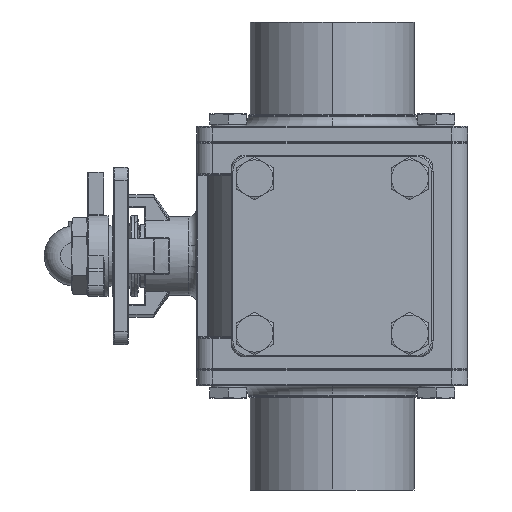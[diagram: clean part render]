
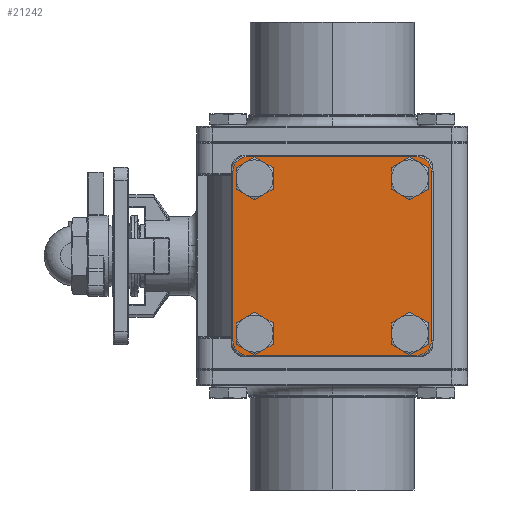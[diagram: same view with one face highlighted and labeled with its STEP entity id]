
A CAD part, left-side view. The second image highlights one B-rep face of the part: STEP entity #21242.
In plain terms, the highlighted planar face has unit normal (-1, 0, 0) as drawn and (0, 0, 1) by its records, which use the part's own axes.
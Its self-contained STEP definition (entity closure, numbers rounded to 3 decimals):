
#302 = DIRECTION ( 'NONE',  ( 0., 1., 0. ) ) ;
#307 = VERTEX_POINT ( 'NONE', #22426 ) ;
#315 = CARTESIAN_POINT ( 'NONE',  ( 52.5, 52.5, 10. ) ) ;
#778 = DIRECTION ( 'NONE',  ( 1., 0., 0. ) ) ;
#1271 = VERTEX_POINT ( 'NONE', #19584 ) ;
#1310 = EDGE_CURVE ( 'NONE', #26411, #8329, #14267, .T. ) ;
#1314 = AXIS2_PLACEMENT_3D ( 'NONE', #7794, #35373, #32737 ) ;
#1603 = VECTOR ( 'NONE', #28878, 1000. ) ;
#2033 = DIRECTION ( 'NONE',  ( 1., 0., 0. ) ) ;
#2160 = CARTESIAN_POINT ( 'NONE',  ( 52.5, -61.5, 10. ) ) ;
#2172 = EDGE_CURVE ( 'NONE', #307, #32868, #10787, .T. ) ;
#2194 = DIRECTION ( 'NONE',  ( 1., 0., 0. ) ) ;
#2559 = VERTEX_POINT ( 'NONE', #26328 ) ;
#2565 = VERTEX_POINT ( 'NONE', #9608 ) ;
#2638 = VERTEX_POINT ( 'NONE', #4975 ) ;
#2890 = FACE_BOUND ( 'NONE', #18288, .T. ) ;
#3205 = VECTOR ( 'NONE', #35304, 1000. ) ;
#3345 = CARTESIAN_POINT ( 'NONE',  ( 56.833, -48.083, 10. ) ) ;
#3488 = DIRECTION ( 'NONE',  ( 0., 0., 1. ) ) ;
#3553 = AXIS2_PLACEMENT_3D ( 'NONE', #19547, #33588, #11667 ) ;
#4975 = CARTESIAN_POINT ( 'NONE',  ( -56.833, 48.083, 10. ) ) ;
#5174 = CARTESIAN_POINT ( 'NONE',  ( 48.083, -48.083, 10. ) ) ;
#5444 = ORIENTED_EDGE ( 'NONE', *, *, #28520, .T. ) ;
#5516 = CARTESIAN_POINT ( 'NONE',  ( -52.5, -61.5, 10. ) ) ;
#5563 = VERTEX_POINT ( 'NONE', #20532 ) ;
#5730 = DIRECTION ( 'NONE',  ( 1., 0., 0. ) ) ;
#5804 = EDGE_CURVE ( 'NONE', #7649, #5563, #35136, .T. ) ;
#5918 = VERTEX_POINT ( 'NONE', #16646 ) ;
#5924 = EDGE_CURVE ( 'NONE', #26153, #13139, #17539, .T. ) ;
#6334 = EDGE_CURVE ( 'NONE', #9189, #307, #21380, .T. ) ;
#6416 = EDGE_CURVE ( 'NONE', #13139, #5918, #19653, .T. ) ;
#7152 = ORIENTED_EDGE ( 'NONE', *, *, #28894, .F. ) ;
#7649 = VERTEX_POINT ( 'NONE', #3345 ) ;
#7794 = CARTESIAN_POINT ( 'NONE',  ( 52.5, -52.5, 10. ) ) ;
#7956 = DIRECTION ( 'NONE',  ( 1., 0., 0. ) ) ;
#8059 = DIRECTION ( 'NONE',  ( 1., 0., 0. ) ) ;
#8099 = AXIS2_PLACEMENT_3D ( 'NONE', #14636, #3488, #22697 ) ;
#8257 = AXIS2_PLACEMENT_3D ( 'NONE', #18707, #19062, #8059 ) ;
#8329 = VERTEX_POINT ( 'NONE', #30990 ) ;
#8398 = CIRCLE ( 'NONE', #31544, 8.75 ) ;
#9034 = EDGE_CURVE ( 'NONE', #24745, #9189, #18215, .T. ) ;
#9189 = VERTEX_POINT ( 'NONE', #5516 ) ;
#9608 = CARTESIAN_POINT ( 'NONE',  ( -56.833, -48.083, 10. ) ) ;
#9829 = CARTESIAN_POINT ( 'NONE',  ( -61.5, -52.5, 10. ) ) ;
#10536 = ORIENTED_EDGE ( 'NONE', *, *, #34911, .F. ) ;
#10787 = CIRCLE ( 'NONE', #1314, 9. ) ;
#11087 = ORIENTED_EDGE ( 'NONE', *, *, #11249, .F. ) ;
#11249 = EDGE_CURVE ( 'NONE', #5563, #7649, #12879, .T. ) ;
#11667 = DIRECTION ( 'NONE',  ( 1., 0., 0. ) ) ;
#11946 = AXIS2_PLACEMENT_3D ( 'NONE', #27956, #22343, #16574 ) ;
#12000 = CIRCLE ( 'NONE', #34065, 9. ) ;
#12625 = AXIS2_PLACEMENT_3D ( 'NONE', #315, #22291, #19189 ) ;
#12657 = EDGE_CURVE ( 'NONE', #5918, #29889, #12000, .T. ) ;
#12879 = CIRCLE ( 'NONE', #32644, 8.75 ) ;
#13084 = CARTESIAN_POINT ( 'NONE',  ( 61.5, -52.5, 10. ) ) ;
#13139 = VERTEX_POINT ( 'NONE', #27369 ) ;
#13170 = CARTESIAN_POINT ( 'NONE',  ( -52.5, 61.5, 10. ) ) ;
#13938 = CARTESIAN_POINT ( 'NONE',  ( -52.5, 52.5, 10. ) ) ;
#14015 = EDGE_LOOP ( 'NONE', ( #10536, #7152 ) ) ;
#14267 = CIRCLE ( 'NONE', #11946, 8.75 ) ;
#14636 = CARTESIAN_POINT ( 'NONE',  ( 48.083, 48.083, 10. ) ) ;
#14656 = CIRCLE ( 'NONE', #28258, 8.75 ) ;
#15421 = ORIENTED_EDGE ( 'NONE', *, *, #2172, .T. ) ;
#15776 = CARTESIAN_POINT ( 'NONE',  ( -48.083, 48.083, 10. ) ) ;
#15908 = CIRCLE ( 'NONE', #23161, 8.75 ) ;
#16192 = AXIS2_PLACEMENT_3D ( 'NONE', #21497, #18509, #2033 ) ;
#16574 = DIRECTION ( 'NONE',  ( 1., 0., 0. ) ) ;
#16646 = CARTESIAN_POINT ( 'NONE',  ( -52.5, 61.5, 10. ) ) ;
#17539 = CIRCLE ( 'NONE', #12625, 9. ) ;
#18215 = CIRCLE ( 'NONE', #16192, 9. ) ;
#18288 = EDGE_LOOP ( 'NONE', ( #11087, #28460 ) ) ;
#18492 = FACE_BOUND ( 'NONE', #18900, .T. ) ;
#18509 = DIRECTION ( 'NONE',  ( 0., 0., 1. ) ) ;
#18707 = CARTESIAN_POINT ( 'NONE',  ( 48.083, -48.083, 10. ) ) ;
#18733 = EDGE_LOOP ( 'NONE', ( #5444, #32964, #32605, #32350, #22215, #33472, #22369, #15421 ) ) ;
#18778 = PLANE ( 'NONE',  #22337 ) ;
#18791 = DIRECTION ( 'NONE',  ( 0., 0., 1. ) ) ;
#18900 = EDGE_LOOP ( 'NONE', ( #28724, #25211 ) ) ;
#18954 = ORIENTED_EDGE ( 'NONE', *, *, #34165, .F. ) ;
#19013 = CARTESIAN_POINT ( 'NONE',  ( -48.083, 48.083, 10. ) ) ;
#19062 = DIRECTION ( 'NONE',  ( 0., 0., 1. ) ) ;
#19189 = DIRECTION ( 'NONE',  ( 1., 0., 0. ) ) ;
#19198 = EDGE_CURVE ( 'NONE', #1271, #2565, #19428, .T. ) ;
#19428 = CIRCLE ( 'NONE', #3553, 8.75 ) ;
#19547 = CARTESIAN_POINT ( 'NONE',  ( -48.083, -48.083, 10. ) ) ;
#19584 = CARTESIAN_POINT ( 'NONE',  ( -39.333, -48.083, 10. ) ) ;
#19653 = LINE ( 'NONE', #13170, #24359 ) ;
#19660 = EDGE_CURVE ( 'NONE', #2565, #1271, #14656, .T. ) ;
#20532 = CARTESIAN_POINT ( 'NONE',  ( 39.333, -48.083, 10. ) ) ;
#20536 = VECTOR ( 'NONE', #302, 1000. ) ;
#21242 = ADVANCED_FACE ( 'NONE', ( #21476, #18492, #34366, #2890, #24059 ), #18778, .T. ) ;
#21380 = LINE ( 'NONE', #2160, #3205 ) ;
#21424 = DIRECTION ( 'NONE',  ( 0., 0., 1. ) ) ;
#21476 = FACE_OUTER_BOUND ( 'NONE', #18733, .T. ) ;
#21497 = CARTESIAN_POINT ( 'NONE',  ( -52.5, -52.5, 10. ) ) ;
#22215 = ORIENTED_EDGE ( 'NONE', *, *, #26593, .T. ) ;
#22291 = DIRECTION ( 'NONE',  ( 0., 0., 1. ) ) ;
#22337 = AXIS2_PLACEMENT_3D ( 'NONE', #29807, #21424, #2194 ) ;
#22343 = DIRECTION ( 'NONE',  ( 0., 0., 1. ) ) ;
#22369 = ORIENTED_EDGE ( 'NONE', *, *, #6334, .T. ) ;
#22426 = CARTESIAN_POINT ( 'NONE',  ( 52.5, -61.5, 10. ) ) ;
#22697 = DIRECTION ( 'NONE',  ( 1., 0., 0. ) ) ;
#22843 = CIRCLE ( 'NONE', #8099, 8.75 ) ;
#23144 = CARTESIAN_POINT ( 'NONE',  ( -61.5, -52.5, 10. ) ) ;
#23161 = AXIS2_PLACEMENT_3D ( 'NONE', #15776, #18791, #34999 ) ;
#23236 = CARTESIAN_POINT ( 'NONE',  ( -48.083, -48.083, 10. ) ) ;
#23524 = LINE ( 'NONE', #33448, #20536 ) ;
#24052 = DIRECTION ( 'NONE',  ( 1., 0., 0. ) ) ;
#24059 = FACE_BOUND ( 'NONE', #14015, .T. ) ;
#24359 = VECTOR ( 'NONE', #32442, 1000. ) ;
#24460 = DIRECTION ( 'NONE',  ( 0., 0., 1. ) ) ;
#24745 = VERTEX_POINT ( 'NONE', #9829 ) ;
#25211 = ORIENTED_EDGE ( 'NONE', *, *, #19198, .F. ) ;
#26062 = ORIENTED_EDGE ( 'NONE', *, *, #1310, .F. ) ;
#26143 = CARTESIAN_POINT ( 'NONE',  ( -61.5, 52.5, 10. ) ) ;
#26153 = VERTEX_POINT ( 'NONE', #26870 ) ;
#26328 = CARTESIAN_POINT ( 'NONE',  ( -39.333, 48.083, 10. ) ) ;
#26411 = VERTEX_POINT ( 'NONE', #33820 ) ;
#26593 = EDGE_CURVE ( 'NONE', #29889, #24745, #34793, .T. ) ;
#26870 = CARTESIAN_POINT ( 'NONE',  ( 61.5, 52.5, 10. ) ) ;
#27369 = CARTESIAN_POINT ( 'NONE',  ( 52.5, 61.5, 10. ) ) ;
#27956 = CARTESIAN_POINT ( 'NONE',  ( 48.083, 48.083, 10. ) ) ;
#27998 = DIRECTION ( 'NONE',  ( 0., 0., 1. ) ) ;
#28258 = AXIS2_PLACEMENT_3D ( 'NONE', #23236, #28497, #778 ) ;
#28460 = ORIENTED_EDGE ( 'NONE', *, *, #5804, .F. ) ;
#28497 = DIRECTION ( 'NONE',  ( 0., 0., 1. ) ) ;
#28520 = EDGE_CURVE ( 'NONE', #32868, #26153, #23524, .T. ) ;
#28724 = ORIENTED_EDGE ( 'NONE', *, *, #19660, .F. ) ;
#28878 = DIRECTION ( 'NONE',  ( 0., -1., 0. ) ) ;
#28894 = EDGE_CURVE ( 'NONE', #2559, #2638, #8398, .T. ) ;
#29026 = EDGE_LOOP ( 'NONE', ( #26062, #18954 ) ) ;
#29807 = CARTESIAN_POINT ( 'NONE',  ( 52.5, -52.5, 10. ) ) ;
#29889 = VERTEX_POINT ( 'NONE', #26143 ) ;
#30990 = CARTESIAN_POINT ( 'NONE',  ( 56.833, 48.083, 10. ) ) ;
#31544 = AXIS2_PLACEMENT_3D ( 'NONE', #19013, #32470, #24052 ) ;
#32350 = ORIENTED_EDGE ( 'NONE', *, *, #12657, .T. ) ;
#32442 = DIRECTION ( 'NONE',  ( -1., 0., 0. ) ) ;
#32470 = DIRECTION ( 'NONE',  ( 0., 0., 1. ) ) ;
#32605 = ORIENTED_EDGE ( 'NONE', *, *, #6416, .T. ) ;
#32644 = AXIS2_PLACEMENT_3D ( 'NONE', #5174, #24460, #7956 ) ;
#32737 = DIRECTION ( 'NONE',  ( 1., 0., 0. ) ) ;
#32868 = VERTEX_POINT ( 'NONE', #13084 ) ;
#32964 = ORIENTED_EDGE ( 'NONE', *, *, #5924, .T. ) ;
#33448 = CARTESIAN_POINT ( 'NONE',  ( 61.5, 52.5, 10. ) ) ;
#33472 = ORIENTED_EDGE ( 'NONE', *, *, #9034, .T. ) ;
#33588 = DIRECTION ( 'NONE',  ( 0., 0., 1. ) ) ;
#33820 = CARTESIAN_POINT ( 'NONE',  ( 39.333, 48.083, 10. ) ) ;
#34065 = AXIS2_PLACEMENT_3D ( 'NONE', #13938, #27998, #5730 ) ;
#34165 = EDGE_CURVE ( 'NONE', #8329, #26411, #22843, .T. ) ;
#34366 = FACE_BOUND ( 'NONE', #29026, .T. ) ;
#34793 = LINE ( 'NONE', #23144, #1603 ) ;
#34911 = EDGE_CURVE ( 'NONE', #2638, #2559, #15908, .T. ) ;
#34999 = DIRECTION ( 'NONE',  ( 1., 0., 0. ) ) ;
#35136 = CIRCLE ( 'NONE', #8257, 8.75 ) ;
#35304 = DIRECTION ( 'NONE',  ( 1., 0., 0. ) ) ;
#35373 = DIRECTION ( 'NONE',  ( 0., 0., 1. ) ) ;
